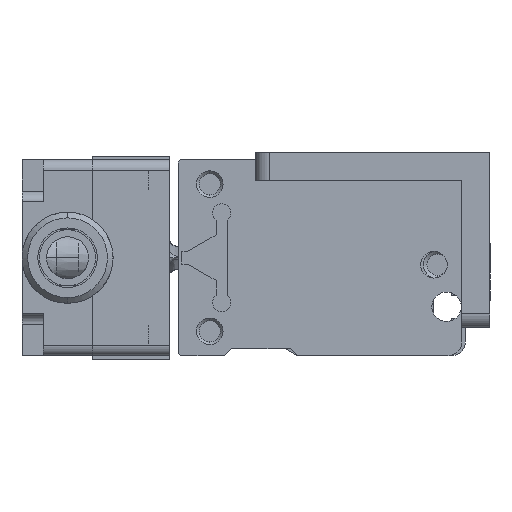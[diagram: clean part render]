
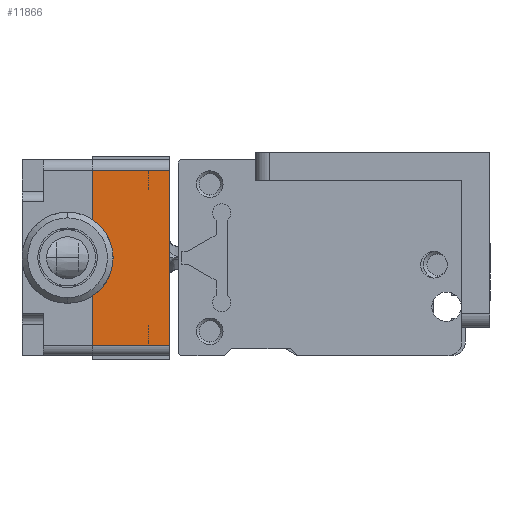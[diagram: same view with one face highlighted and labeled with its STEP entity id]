
A CAD part, left-side view. The second image highlights one B-rep face of the part: STEP entity #11866.
In plain terms, the highlighted planar face has unit normal (-1, 0, 0).
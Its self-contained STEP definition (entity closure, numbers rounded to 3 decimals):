
#2203 = DIRECTION ( 'NONE',  ( 0., 0., 1. ) ) ;
#2204 = CARTESIAN_POINT ( 'NONE',  ( -0.373, -56.718, 15.08 ) ) ;
#2205 = DIRECTION ( 'NONE',  ( 0., -1., 0. ) ) ;
#2206 = CARTESIAN_POINT ( 'NONE',  ( -0.373, -45.718, 12.5 ) ) ;
#2213 = DIRECTION ( 'NONE',  ( 0., 0., 1. ) ) ;
#2214 = CARTESIAN_POINT ( 'NONE',  ( -0.373, -45.718, 15.08 ) ) ;
#2215 = DIRECTION ( 'NONE',  ( 0., 1., 0. ) ) ;
#2216 = CARTESIAN_POINT ( 'NONE',  ( -0.373, -56.938, -12.5 ) ) ;
#7499 = EDGE_CURVE ( 'NONE', #12447, #13954, #17197, .T. ) ;
#7500 = EDGE_CURVE ( 'NONE', #13954, #12297, #17199, .T. ) ;
#7503 = EDGE_CURVE ( 'NONE', #12297, #12433, #17203, .T. ) ;
#7504 = EDGE_CURVE ( 'NONE', #12447, #12433, #17205, .T. ) ;
#11866 = ADVANCED_FACE ( 'NONE', ( #13848 ), #15804, .F. ) ;
#12170 = EDGE_LOOP ( 'NONE', ( #14377, #14378, #14379, #14380 ) ) ;
#12297 = VERTEX_POINT ( 'NONE', #16238 ) ;
#12433 = VERTEX_POINT ( 'NONE', #16276 ) ;
#12447 = VERTEX_POINT ( 'NONE', #16289 ) ;
#13848 = FACE_OUTER_BOUND ( 'NONE', #12170, .T. ) ;
#13954 = VERTEX_POINT ( 'NONE', #16379 ) ;
#14377 = ORIENTED_EDGE ( 'NONE', *, *, #7504, .T. ) ;
#14378 = ORIENTED_EDGE ( 'NONE', *, *, #7503, .F. ) ;
#14379 = ORIENTED_EDGE ( 'NONE', *, *, #7500, .F. ) ;
#14380 = ORIENTED_EDGE ( 'NONE', *, *, #7499, .F. ) ;
#15803 = CARTESIAN_POINT ( 'NONE',  ( -0.373, -56.938, 13. ) ) ;
#15804 = PLANE ( 'NONE',  #18536 ) ;
#15806 = DIRECTION ( 'NONE',  ( 1., 0., 0. ) ) ;
#15807 = DIRECTION ( 'NONE',  ( 0., 0., -1. ) ) ;
#16238 = CARTESIAN_POINT ( 'NONE',  ( -0.373, -45.718, 12.5 ) ) ;
#16276 = CARTESIAN_POINT ( 'NONE',  ( -0.373, -56.718, 12.5 ) ) ;
#16289 = CARTESIAN_POINT ( 'NONE',  ( -0.373, -56.718, -12.5 ) ) ;
#16379 = CARTESIAN_POINT ( 'NONE',  ( -0.373, -45.718, -12.5 ) ) ;
#17197 = LINE ( 'NONE', #2216, #17198 ) ;
#17198 = VECTOR ( 'NONE', #2215, 1000. ) ;
#17199 = LINE ( 'NONE', #2214, #17200 ) ;
#17200 = VECTOR ( 'NONE', #2213, 1000. ) ;
#17203 = LINE ( 'NONE', #2206, #17204 ) ;
#17204 = VECTOR ( 'NONE', #2205, 1000. ) ;
#17205 = LINE ( 'NONE', #2204, #17206 ) ;
#17206 = VECTOR ( 'NONE', #2203, 1000. ) ;
#18536 = AXIS2_PLACEMENT_3D ( 'NONE', #15803, #15806, #15807 ) ;
